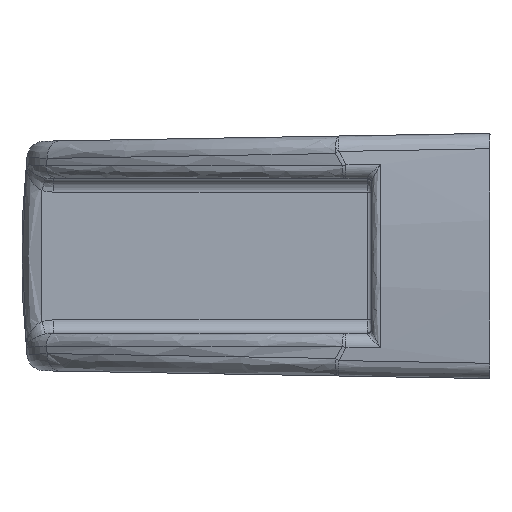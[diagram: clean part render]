
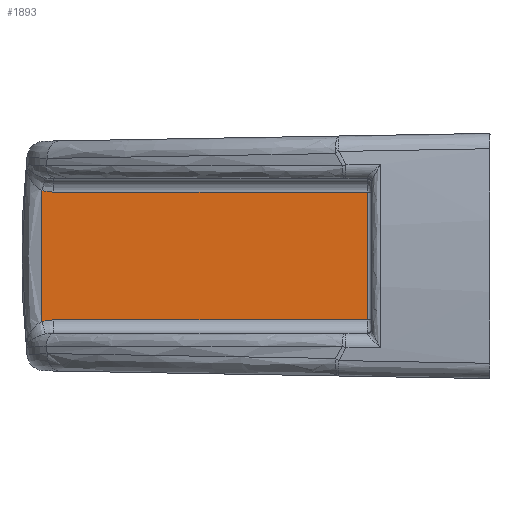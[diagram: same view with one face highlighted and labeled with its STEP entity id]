
A CAD part, left-side view. The second image highlights one B-rep face of the part: STEP entity #1893.
In plain terms, the highlighted planar face has unit normal (-1, 0, 0).
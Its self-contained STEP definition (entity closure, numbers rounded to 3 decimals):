
#86 = VERTEX_POINT ( 'NONE', #7129 ) ;
#267 = ORIENTED_EDGE ( 'NONE', *, *, #5438, .F. ) ;
#483 = CARTESIAN_POINT ( 'NONE',  ( -63., 14., 7.3 ) ) ;
#566 = CARTESIAN_POINT ( 'NONE',  ( -63., 49.814, 7.3 ) ) ;
#600 = B_SPLINE_CURVE_WITH_KNOTS ( 'NONE', 3,
 ( #4471, #2255, #2129, #1807, #1709, #1682 ),
 .UNSPECIFIED., .F., .F.,
 ( 4, 2, 4 ),
 ( 0., 0.5, 1. ),
 .UNSPECIFIED. ) ;
#796 = VECTOR ( 'NONE', #3014, 1000. ) ;
#847 = EDGE_LOOP ( 'NONE', ( #4173, #267, #2776, #3809, #1234, #2154 ) ) ;
#928 = CARTESIAN_POINT ( 'NONE',  ( -63., 50.726, -7.352 ) ) ;
#1085 = CARTESIAN_POINT ( 'NONE',  ( -63., 51.169, 7.481 ) ) ;
#1234 = ORIENTED_EDGE ( 'NONE', *, *, #3562, .F. ) ;
#1465 = VERTEX_POINT ( 'NONE', #1085 ) ;
#1682 = CARTESIAN_POINT ( 'NONE',  ( -63., 51.169, 7.481 ) ) ;
#1709 = CARTESIAN_POINT ( 'NONE',  ( -63., 51.337, 4.988 ) ) ;
#1807 = CARTESIAN_POINT ( 'NONE',  ( -63., 51.414, 2.49 ) ) ;
#1849 = CARTESIAN_POINT ( 'NONE',  ( -63., 49.814, 7.3 ) ) ;
#1893 = ADVANCED_FACE ( 'NONE', ( #2248 ), #6309, .F. ) ;
#1981 = CARTESIAN_POINT ( 'NONE',  ( -63., 50.273, -7.3 ) ) ;
#2033 = EDGE_CURVE ( 'NONE', #2165, #1465, #600, .T. ) ;
#2129 = CARTESIAN_POINT ( 'NONE',  ( -63., 51.413, -2.509 ) ) ;
#2154 = ORIENTED_EDGE ( 'NONE', *, *, #6162, .F. ) ;
#2165 = VERTEX_POINT ( 'NONE', #6613 ) ;
#2179 = VERTEX_POINT ( 'NONE', #5087 ) ;
#2226 = LINE ( 'NONE', #5754, #796 ) ;
#2248 = FACE_OUTER_BOUND ( 'NONE', #847, .T. ) ;
#2255 = CARTESIAN_POINT ( 'NONE',  ( -63., 51.336, -5. ) ) ;
#2360 = CARTESIAN_POINT ( 'NONE',  ( -63., 53.5, -7.3 ) ) ;
#2776 = ORIENTED_EDGE ( 'NONE', *, *, #6253, .F. ) ;
#2882 = CARTESIAN_POINT ( 'NONE',  ( -63., 49.814, -7.3 ) ) ;
#3014 = DIRECTION ( 'NONE',  ( 0., 0., -1. ) ) ;
#3168 = B_SPLINE_CURVE_WITH_KNOTS ( 'NONE', 3,
 ( #2882, #1981, #928, #4944 ),
 .UNSPECIFIED., .F., .F.,
 ( 4, 4 ),
 ( 0., 1. ),
 .UNSPECIFIED. ) ;
#3242 = B_SPLINE_CURVE_WITH_KNOTS ( 'NONE', 3,
 ( #4088, #6251, #5196, #1849 ),
 .UNSPECIFIED., .F., .F.,
 ( 4, 4 ),
 ( 0., 1. ),
 .UNSPECIFIED. ) ;
#3392 = LINE ( 'NONE', #6706, #6301 ) ;
#3442 = DIRECTION ( 'NONE',  ( 0., -1., 0. ) ) ;
#3562 = EDGE_CURVE ( 'NONE', #2179, #2165, #3168, .T. ) ;
#3809 = ORIENTED_EDGE ( 'NONE', *, *, #2033, .F. ) ;
#4088 = CARTESIAN_POINT ( 'NONE',  ( -63., 51.169, 7.481 ) ) ;
#4124 = CARTESIAN_POINT ( 'NONE',  ( -63., 53.5, -8.8 ) ) ;
#4173 = ORIENTED_EDGE ( 'NONE', *, *, #6256, .F. ) ;
#4471 = CARTESIAN_POINT ( 'NONE',  ( -63., 51.169, -7.481 ) ) ;
#4944 = CARTESIAN_POINT ( 'NONE',  ( -63., 51.169, -7.481 ) ) ;
#5087 = CARTESIAN_POINT ( 'NONE',  ( -63., 49.814, -7.3 ) ) ;
#5196 = CARTESIAN_POINT ( 'NONE',  ( -63., 50.273, 7.3 ) ) ;
#5438 = EDGE_CURVE ( 'NONE', #6083, #6385, #3392, .T. ) ;
#5754 = CARTESIAN_POINT ( 'NONE',  ( -63., 14., -8.8 ) ) ;
#6083 = VERTEX_POINT ( 'NONE', #566 ) ;
#6162 = EDGE_CURVE ( 'NONE', #86, #2179, #6807, .T. ) ;
#6198 = DIRECTION ( 'NONE',  ( 0., 1., 0. ) ) ;
#6251 = CARTESIAN_POINT ( 'NONE',  ( -63., 50.726, 7.352 ) ) ;
#6253 = EDGE_CURVE ( 'NONE', #1465, #6083, #3242, .T. ) ;
#6256 = EDGE_CURVE ( 'NONE', #6385, #86, #2226, .T. ) ;
#6301 = VECTOR ( 'NONE', #3442, 1000. ) ;
#6309 = PLANE ( 'NONE',  #6929 ) ;
#6385 = VERTEX_POINT ( 'NONE', #483 ) ;
#6613 = CARTESIAN_POINT ( 'NONE',  ( -63., 51.169, -7.481 ) ) ;
#6623 = VECTOR ( 'NONE', #6198, 1000. ) ;
#6706 = CARTESIAN_POINT ( 'NONE',  ( -63., 53.5, 7.3 ) ) ;
#6807 = LINE ( 'NONE', #2360, #6623 ) ;
#6862 = DIRECTION ( 'NONE',  ( 0., 1., 0. ) ) ;
#6878 = DIRECTION ( 'NONE',  ( 1., 0., 0. ) ) ;
#6929 = AXIS2_PLACEMENT_3D ( 'NONE', #4124, #6878, #6862 ) ;
#7129 = CARTESIAN_POINT ( 'NONE',  ( -63., 14., -7.3 ) ) ;
